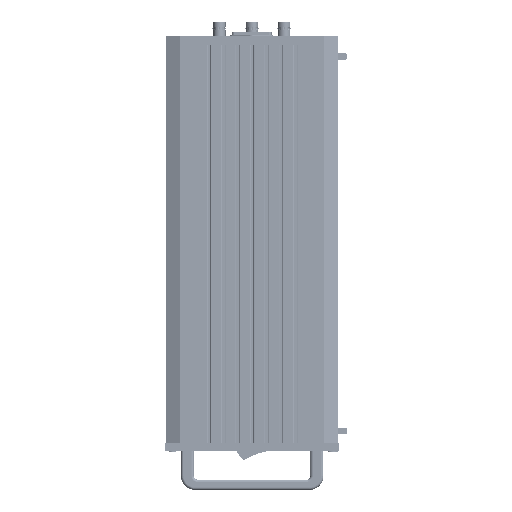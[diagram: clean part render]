
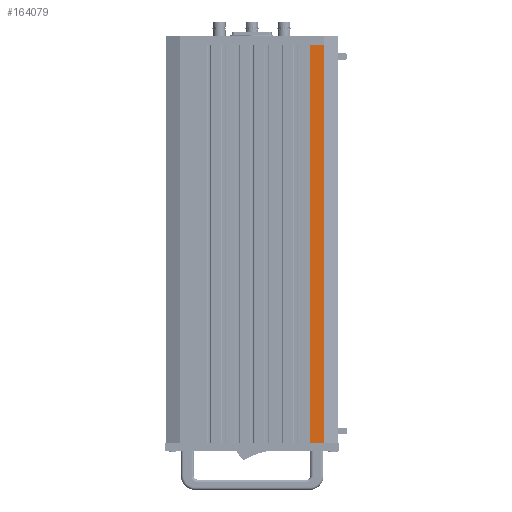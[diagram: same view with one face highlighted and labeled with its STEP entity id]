
A CAD part, left-side view. The second image highlights one B-rep face of the part: STEP entity #164079.
In plain terms, the highlighted planar face has unit normal (-1, 0, 0).
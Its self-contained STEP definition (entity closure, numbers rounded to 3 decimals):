
#15456 = DIRECTION ( 'NONE',  ( 0., -1., 0. ) ) ;
#17558 = DIRECTION ( 'NONE',  ( 1., 0., 0. ) ) ;
#18506 = EDGE_CURVE ( 'NONE', #23426, #92563, #123639, .T. ) ;
#23426 = VERTEX_POINT ( 'NONE', #212156 ) ;
#24669 = CARTESIAN_POINT ( 'NONE',  ( -414.242, -58.981, 460.4 ) ) ;
#31320 = DIRECTION ( 'NONE',  ( 0., 0., -1. ) ) ;
#33254 = CARTESIAN_POINT ( 'NONE',  ( -414.242, -58.981, 153.4 ) ) ;
#38057 = EDGE_CURVE ( 'NONE', #199154, #219131, #167299, .T. ) ;
#42541 = DIRECTION ( 'NONE',  ( 0., 0., -1. ) ) ;
#58602 = LINE ( 'NONE', #33254, #189588 ) ;
#67696 = CARTESIAN_POINT ( 'NONE',  ( -414.242, -58.981, 460.4 ) ) ;
#75342 = VECTOR ( 'NONE', #42541, 1000. ) ;
#83944 = AXIS2_PLACEMENT_3D ( 'NONE', #87047, #17558, #189351 ) ;
#87047 = CARTESIAN_POINT ( 'NONE',  ( -414.242, -58.981, 460.4 ) ) ;
#92563 = VERTEX_POINT ( 'NONE', #216945 ) ;
#103467 = PLANE ( 'NONE',  #83944 ) ;
#116476 = CARTESIAN_POINT ( 'NONE',  ( -414.242, -58.981, 460.4 ) ) ;
#123639 = LINE ( 'NONE', #179276, #75342 ) ;
#129786 = VECTOR ( 'NONE', #31320, 1000. ) ;
#131200 = VECTOR ( 'NONE', #15456, 1000. ) ;
#134347 = FACE_OUTER_BOUND ( 'NONE', #194398, .T. ) ;
#154208 = DIRECTION ( 'NONE',  ( 0., -1., 0. ) ) ;
#155999 = EDGE_CURVE ( 'NONE', #23426, #199154, #192742, .T. ) ;
#164079 = ADVANCED_FACE ( 'NONE', ( #134347 ), #103467, .F. ) ;
#167299 = LINE ( 'NONE', #116476, #129786 ) ;
#171609 = ORIENTED_EDGE ( 'NONE', *, *, #38057, .F. ) ;
#179276 = CARTESIAN_POINT ( 'NONE',  ( -414.242, -47.981, 460.4 ) ) ;
#184611 = EDGE_CURVE ( 'NONE', #92563, #219131, #58602, .T. ) ;
#186504 = ORIENTED_EDGE ( 'NONE', *, *, #184611, .T. ) ;
#188874 = ORIENTED_EDGE ( 'NONE', *, *, #155999, .F. ) ;
#189351 = DIRECTION ( 'NONE',  ( 0., 0., 1. ) ) ;
#189588 = VECTOR ( 'NONE', #154208, 1000. ) ;
#192742 = LINE ( 'NONE', #67696, #131200 ) ;
#194398 = EDGE_LOOP ( 'NONE', ( #186504, #171609, #188874, #201705 ) ) ;
#199154 = VERTEX_POINT ( 'NONE', #24669 ) ;
#201705 = ORIENTED_EDGE ( 'NONE', *, *, #18506, .T. ) ;
#212156 = CARTESIAN_POINT ( 'NONE',  ( -414.242, -47.981, 460.4 ) ) ;
#214292 = CARTESIAN_POINT ( 'NONE',  ( -414.242, -58.981, 153.4 ) ) ;
#216945 = CARTESIAN_POINT ( 'NONE',  ( -414.242, -47.981, 153.4 ) ) ;
#219131 = VERTEX_POINT ( 'NONE', #214292 ) ;
